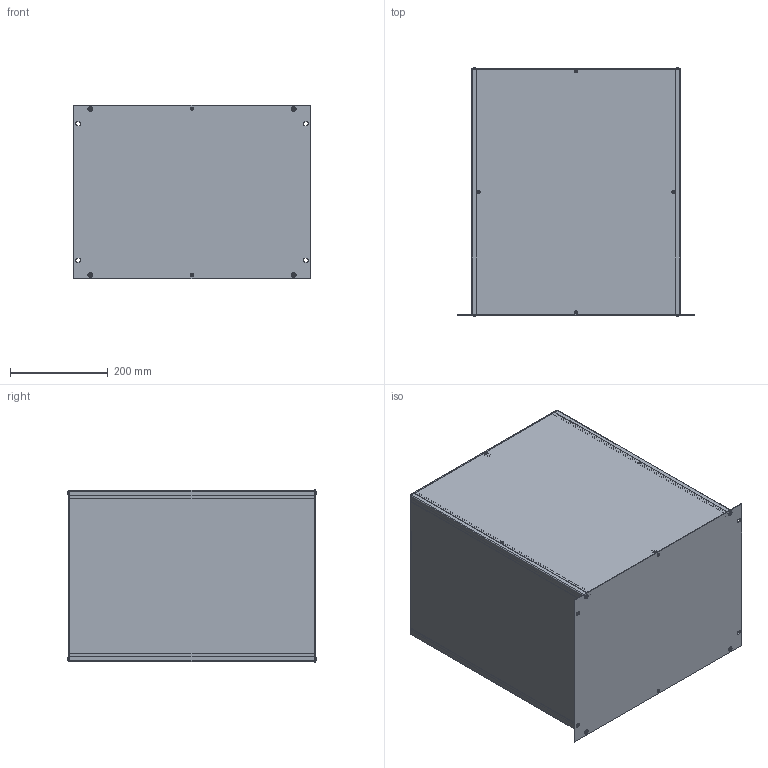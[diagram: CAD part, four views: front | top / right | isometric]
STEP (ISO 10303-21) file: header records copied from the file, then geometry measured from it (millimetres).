
FILE_DESCRIPTION(/* description */ (''),/* implementation_level */ '2;1');
FILE_NAME(/* name */ '//diskstation/Kunden/Gehäuse/Gehäuse/8HE/step/19 Zoll 8HE Rack Gehäuse Tiefe-500.step',/* time_stamp */ '2022-02-17T17:14:16+01:00',/* author */ (''),/* organization */ (''),/* preprocessor_version */ 'ST-DEVELOPER v18.1',/* originating_system */ 'Autodesk Translation Framework v10.10.0.1391',/* authorisation */ '');
FILE_SCHEMA (('AUTOMOTIVE_DESIGN { 1 0 10303 214 3 1 1 }'));
Length unit declared in the file: millimetre
Products named in the file (28): 8HE Gehäuse mit parametern; Gehäuse; Gehäuseprofil 1 unten links; Gehäuseprofil 2 oben rechts; Gehäuseprofil 1 unten rechts; Gehäuseprofil 2 oben links; Rückplatte; Deckel; Seitenteil links; Seitenteil rechts; Bodenplatte; Montageklotz Front/Deckel; Montageklotz Front/Boden; Montageklotz Rück/Deckel; Montageklotz Rück/Boden; Gewindestreifen; Frontplatte; Schrauben M5; Schraube Front; Schraube Front (1); Schraube Front (2); Schraube Front (3); Schraube Rück (1); Schraube Rück; Schraube Rück (2); Schraube Rück (3); Schrauben M3; HI_Senkschraube DIN 965 A v2 M3x5 24677.030.005(High)
Assembly tree (37 placements, depth 3):
  8HE Gehäuse mit parametern
    Gehäuse
      Gehäuseprofil 1 unten links
      Gehäuseprofil 2 oben rechts
      Gehäuseprofil 1 unten rechts
      Gehäuseprofil 2 oben links
      Rückplatte
      Deckel
      Seitenteil links
      Seitenteil rechts
      Bodenplatte
      Montageklotz Front/Deckel
      Montageklotz Front/Boden
      Montageklotz Rück/Deckel
      Montageklotz Rück/Boden
      Gewindestreifen  x2
    Frontplatte
    Schrauben M5
      Schraube Front
      Schraube Front (1)
      Schraube Front (2)
      Schraube Front (3)
      Schraube Rück (1)
      Schraube Rück
      Schraube Rück (2)
      Schraube Rück (3)
    Schrauben M3
      HI_Senkschraube DIN 965 A v2 M3x5 24677.030.005(High)  x10
Bounding box: 483 x 508.2 x 354.8 mm (x, y, z)
Volume: 2740524.8 mm3; surface area: 2341392.1 mm2
Topology: 34 solids, 34 shells, 944 faces, 2346 edges, 1470 vertices
Faces by surface type: cylinder 422, plane 342, cone 164, torus 8, bspline 8
Full cylindrical faces by diameter (mm): 2.529 x180, 3 x10, 3.2 x10, 4.234 x40, 5 x8, 5.2 x4, 5.3 x8, 5.6 x10, 9.5 x8
Entity records: 18600 total; most frequent: CARTESIAN_POINT 3348, DIRECTION 3135, ORIENTED_EDGE 2760, EDGE_CURVE 1380, AXIS2_PLACEMENT_3D 1195, VERTEX_POINT 868, EDGE_LOOP 866, LINE 745
